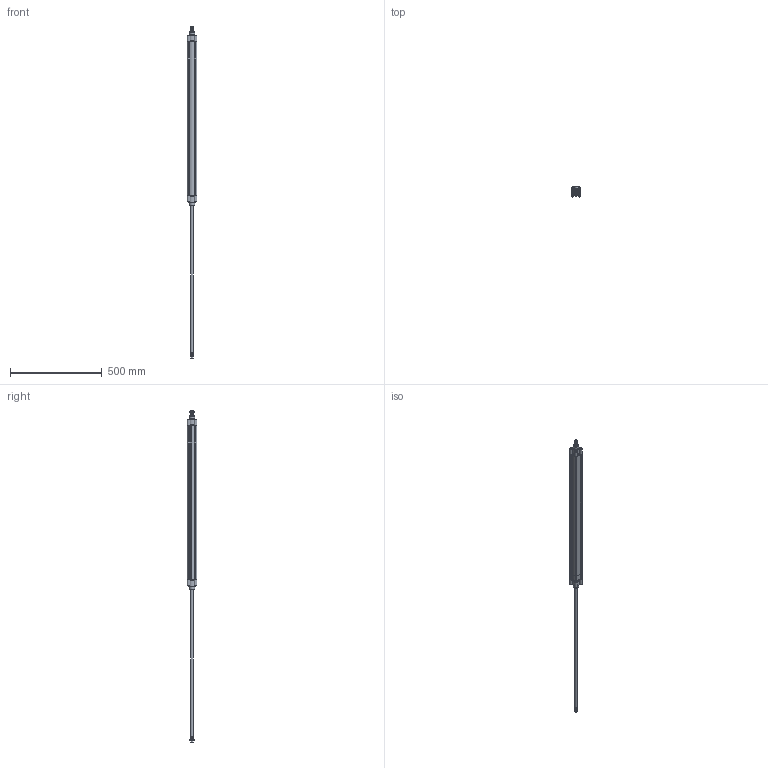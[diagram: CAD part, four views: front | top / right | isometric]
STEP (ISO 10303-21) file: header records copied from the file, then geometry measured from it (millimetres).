
FILE_DESCRIPTION((''),'2;1');
FILE_NAME('I:\Area Tecnica\Disegni\VARIE-3D\Componenti\ECOLIGHT\02\stp\139#_40_0800_02.iam.stp','2012-01-28T09:39:32',(''),(''),'Autodesk Inventor 2012','Autodesk Inventor 2012','');
FILE_SCHEMA(('AUTOMOTIVE_DESIGN { 1 0 10303 214 1 1 1 1 }'));
Length unit declared in the file: millimetre
Products named in the file (5): 139#_40_0800_02; CPL040_004-800; CPL040-001-01; CPL_40SP_0800; 1320_40_18F
Assembly tree (6 placements, depth 2):
  139#_40_0800_02
    CPL040_004-800
    CPL040-001-01  x2
    CPL_40SP_0800
    1320_40_18F  x2
Bounding box: 54 x 54 x 1813 mm (x, y, z)
Volume: 1085745.7 mm3; surface area: 583032.5 mm2
Topology: 6 solids, 6 shells, 351 faces, 860 edges, 564 vertices
Faces by surface type: plane 211, cylinder 98, cone 40, torus 2
Full cylindrical faces by diameter (mm): 5 x8, 5.5 x4, 8 x2, 10 x8, 10.5 x10, 10.8 x2, 11.6 x2, 12 x2, 15.5 x2, 16 x4, 30 x2, 35 x2, 40 x4
Entity records: 7104 total; most frequent: CARTESIAN_POINT 1295, DIRECTION 1162, ORIENTED_EDGE 1084, EDGE_CURVE 542, AXIS2_PLACEMENT_3D 413, VERTEX_POINT 380, VECTOR 336, LINE 336
